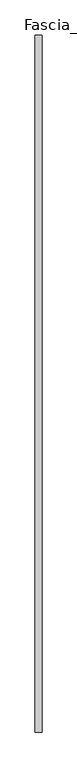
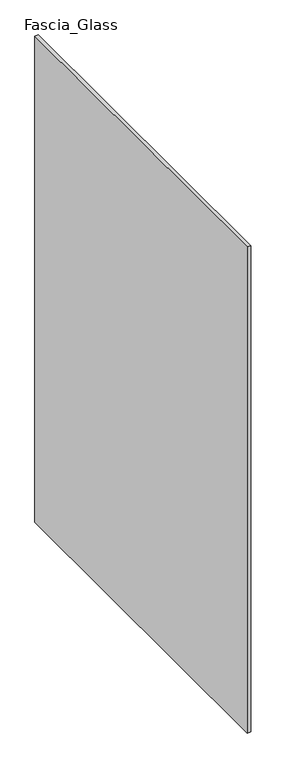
"""IFC4 building model written with IfcOpenShell, lengths in millimetres: railing geometry, Baluster-Excess-Fill-Straight-Panel-VIVA : Fascia_Glass."""

import ifcopenshell
import ifcopenshell.guid

model = None  # the IFC model being written
_history = None  # IfcOwnerHistory: only IFC2X3 demands one
_inside = {}  # id of a spatial element -> (the spatial element, [elements in it])
_under = {}  # id of a project, library or spatial element -> (it, [spatial elements below it])
_declared = {}  # id of a project -> (the project, [libraries it declares])
_typed = {}  # id of a type object -> (the type object, [elements of that type])
_made_of = {}  # id of a material, layer set ... -> (it, [elements and type objects made of it])


def new_model(schema):
    """Start an empty IFC model of exactly this schema.

    Asked for "IFC4X3", IfcOpenShell would pick the latest addendum, in which some entities
    have other attributes; the version numbers below select the first issue.
    IFC2X3 requires an IfcOwnerHistory on every rooted entity: one is made here for all.
    """
    global model, _history
    if schema == "IFC4X3":
        model = ifcopenshell.file(schema_version=(4, 3, 0, 0))
    else:
        model = ifcopenshell.file(schema=schema)
    _inside.clear()
    _under.clear()
    _declared.clear()
    _typed.clear()
    _made_of.clear()
    _history = None
    if model.schema == "IFC2X3":
        org = make("IfcOrganization", Name="unknown")
        user = make(
            "IfcPersonAndOrganization",
            ThePerson=make("IfcPerson", FamilyName="unknown"),
            TheOrganization=org,
        )
        app = make(
            "IfcApplication",
            ApplicationDeveloper=org,
            Version="unknown",
            ApplicationFullName="unknown",
            ApplicationIdentifier="unknown",
        )
        _history = make(
            "IfcOwnerHistory",
            OwningUser=user,
            OwningApplication=app,
            ChangeAction="ADDED",
            CreationDate=0,
        )
    return model


def make(cls, **values):
    """One entity of the class cls with the attributes given. An attribute that is None is left unset."""
    return model.create_entity(
        cls, **{name: value for name, value in values.items() if value is not None}
    )


def rooted(cls, **values):
    """An entity with a GlobalId (a new one), such as an element, a storey or a relation."""
    return make(cls, GlobalId=ifcopenshell.guid.new(), OwnerHistory=_history, **values)


def si_unit(unit_type, name, prefix=None):
    """IfcSIUnit, for example si_unit("LENGTHUNIT", "METRE", prefix="MILLI")."""
    return make("IfcSIUnit", UnitType=unit_type, Prefix=prefix, Name=name)


def assignment(units):
    """IfcUnitAssignment: the units of a project."""
    return None if units is None else make("IfcUnitAssignment", Units=units)


def point(xyz):
    """IfcCartesianPoint."""
    return None if xyz is None else make("IfcCartesianPoint", Coordinates=xyz)


def direction(xyz):
    """IfcDirection."""
    return None if xyz is None else make("IfcDirection", DirectionRatios=xyz)


def frame(location, z_axis=None, x_axis=None):
    """IfcAxis2Placement3D, a coordinate frame: its origin and axes. An axis left out is left unset."""
    return make(
        "IfcAxis2Placement3D",
        Location=point(location),
        Axis=direction(z_axis),
        RefDirection=direction(x_axis),
    )


def origin():
    """The frame at (0, 0, 0) with its axes left unset."""
    return frame((0.0, 0.0, 0.0))


def place(relative_to, where):
    """IfcLocalPlacement: puts the frame where relative to a parent placement (None: the world)."""
    return make(
        "IfcLocalPlacement", PlacementRelTo=relative_to, RelativePlacement=where
    )


def context(
    kind, dimensions, precision=None, world=None, true_north=None, identifier=None
):
    """IfcGeometricRepresentationContext, for example the 3D "Model" context."""
    return make(
        "IfcGeometricRepresentationContext",
        ContextIdentifier=identifier,
        ContextType=kind,
        CoordinateSpaceDimension=dimensions,
        Precision=precision,
        WorldCoordinateSystem=world,
        TrueNorth=true_north,
    )


def project(units=None, contexts=None):
    """IfcProject with its units and contexts."""
    return rooted(
        "IfcProject",
        Name="project",
        RepresentationContexts=contexts,
        UnitsInContext=assignment(units),
    )


def spatial(cls, under=None, at=None, **own):
    """A site, building, storey or space (cls), placed at a placement, below another one or the project."""
    s = rooted(cls, ObjectPlacement=at, **own)
    if under is not None:
        _under.setdefault(under.id(), (under, []))[1].append(s)
    return s


def polyline(points):
    """IfcPolyline through the points."""
    return make("IfcPolyline", Points=[point(p) for p in points])


def outline(outer, holes=None, kind="AREA"):
    """IfcArbitraryClosedProfileDef: a profile drawn as a closed curve; with holes, ...WithVoids."""
    if holes is None:
        return make("IfcArbitraryClosedProfileDef", ProfileType=kind, OuterCurve=outer)
    return make(
        "IfcArbitraryProfileDefWithVoids",
        ProfileType=kind,
        OuterCurve=outer,
        InnerCurves=holes,
    )


def extrude(swept, where, along, depth):
    """IfcExtrudedAreaSolid: the profile swept, set in the frame where, extruded along a direction by depth."""
    return make(
        "IfcExtrudedAreaSolid",
        SweptArea=swept,
        Position=where,
        ExtrudedDirection=direction(along),
        Depth=depth,
    )


def shape(context_of_items, identifier, shape_type, items):
    """IfcShapeRepresentation: the items that make up one representation, for example the "Body"."""
    return make(
        "IfcShapeRepresentation",
        ContextOfItems=context_of_items,
        RepresentationIdentifier=identifier,
        RepresentationType=shape_type,
        Items=items,
    )


def source(mapping_origin, context_of_items, identifier, shape_type, items):
    """IfcRepresentationMap: a shape defined once, which mapped items show again and again."""
    return make(
        "IfcRepresentationMap",
        MappingOrigin=mapping_origin,
        MappedRepresentation=shape(context_of_items, identifier, shape_type, items),
    )


def transform(
    local_origin,
    x_axis=None,
    y_axis=None,
    z_axis=None,
    scale=None,
    scale2=None,
    scale3=None,
    uniform=True,
):
    """IfcCartesianTransformationOperator3D, or its non-uniform kind. x_axis, y_axis, z_axis: its Axis1, 2, 3."""
    if uniform:
        return make(
            "IfcCartesianTransformationOperator3D",
            Axis1=direction(x_axis),
            Axis2=direction(y_axis),
            LocalOrigin=point(local_origin),
            Scale=scale,
            Axis3=direction(z_axis),
        )
    return make(
        "IfcCartesianTransformationOperator3DnonUniform",
        Axis1=direction(x_axis),
        Axis2=direction(y_axis),
        LocalOrigin=point(local_origin),
        Scale=scale,
        Axis3=direction(z_axis),
        Scale2=scale2,
        Scale3=scale3,
    )


def mapped(mapping_source, mapping_target):
    """IfcMappedItem: shows the shape of a source again, moved by a transform."""
    return make(
        "IfcMappedItem", MappingSource=mapping_source, MappingTarget=mapping_target
    )


def made_of(thing, what):
    """Note that an element or type object is made of a material, layer set ...; save() writes the relation."""
    if what is not None:
        _made_of.setdefault(what.id(), (what, []))[1].append(thing)
    return thing


def element(
    cls,
    number,
    at=None,
    inside=None,
    cuts=None,
    type_object=None,
    material=None,
    context=None,
    identifier="Body",
    shape_type=None,
    held_by="IfcProductDefinitionShape",
    body=None,
    shapes=None,
    **own,
):
    """One element of the class cls, such as IfcWall. Its Tag is "e" and its number.

    at: its placement. inside: the storey or other place that contains it. cuts: it is an
    opening in that element (IfcRelVoidsElement). A single representation is given by context,
    identifier, shape_type and body (its items); several are given by shapes. held_by: the class
    of the entity that holds the representations. save() writes the other relations.
    """
    e = rooted(cls, Tag="e%d" % number, ObjectPlacement=at, **own)
    if body is not None:
        shapes = [shape(context, identifier, shape_type, body)]
    if shapes is not None:
        e.Representation = make(held_by, Representations=shapes)
    if inside is not None:
        _inside.setdefault(inside.id(), (inside, []))[1].append(e)
    if cuts is not None:
        rooted(
            "IfcRelVoidsElement", RelatingBuildingElement=cuts, RelatedOpeningElement=e
        )
    if type_object is not None:
        _typed.setdefault(type_object.id(), (type_object, []))[1].append(e)
    return made_of(e, material)


def aggregate(whole, parts):
    """IfcRelAggregates: a whole, such as a stair, and the parts it consists of."""
    return rooted("IfcRelAggregates", RelatingObject=whole, RelatedObjects=parts)


def save(model, path):
    """Write the relations noted so far, then the file.

    IfcRelAggregates (storeys below a building ...), IfcRelContainedInSpatialStructure (elements
    in a storey), IfcRelDefinesByType, IfcRelAssociatesMaterial and IfcRelDeclares: one each for
    every whole, place, type object, material and project.
    """
    for whole, parts in _under.values():
        aggregate(whole, parts)
    for where, things in _inside.values():
        rooted(
            "IfcRelContainedInSpatialStructure",
            RelatedElements=things,
            RelatingStructure=where,
        )
    for kind, things in _typed.values():
        rooted("IfcRelDefinesByType", RelatedObjects=things, RelatingType=kind)
    for what, things in _made_of.values():
        rooted("IfcRelAssociatesMaterial", RelatedObjects=things, RelatingMaterial=what)
    for by, libraries in _declared.values():
        rooted("IfcRelDeclares", RelatingContext=by, RelatedDefinitions=libraries)
    model.write(path)


def fascia_glass_4227fe0e(model_context):
    return source(origin(), model_context, "Body", "SweptSolid", [
        extrude(outline(polyline([(36.7665, 1.0851207), (27.2415, 1.0851207), (27.2415, 987.425), (36.7665, 987.425), (36.7665, 1.0851207)])), frame((0.0, 0.0, -304.927), z_axis=(0.0, 0.0, 1.0), x_axis=(1.0, 0.0, 0.0)), (0.0, 0.0, 1.0), 1379.728),
    ])


if __name__ == "__main__":
    model = new_model("IFC4")
    model_context = context("Model", 3, world=origin())
    ifc_project = project(units=[si_unit("LENGTHUNIT", "METRE", prefix="MILLI")], contexts=[model_context])
    site = spatial("IfcSite", under=ifc_project)
    building = spatial("IfcBuilding", under=site)
    placement = place(None, origin())
    fascia_glass_shape = fascia_glass_4227fe0e(model_context)
    element("IfcRailing", 1, ObjectType="Baluster-Excess-Fill-Straight-Panel-VIVA : Fascia_Glass", at=placement, inside=building, context=model_context, shape_type="MappedRepresentation", body=[
        mapped(fascia_glass_shape, transform((0.0, 0.0, 0.0), x_axis=(1.0, 0.0, 0.0), y_axis=(0.0, 1.0, 0.0), z_axis=(0.0, 0.0, 1.0))),
    ])
    save(model, "model.ifc")
